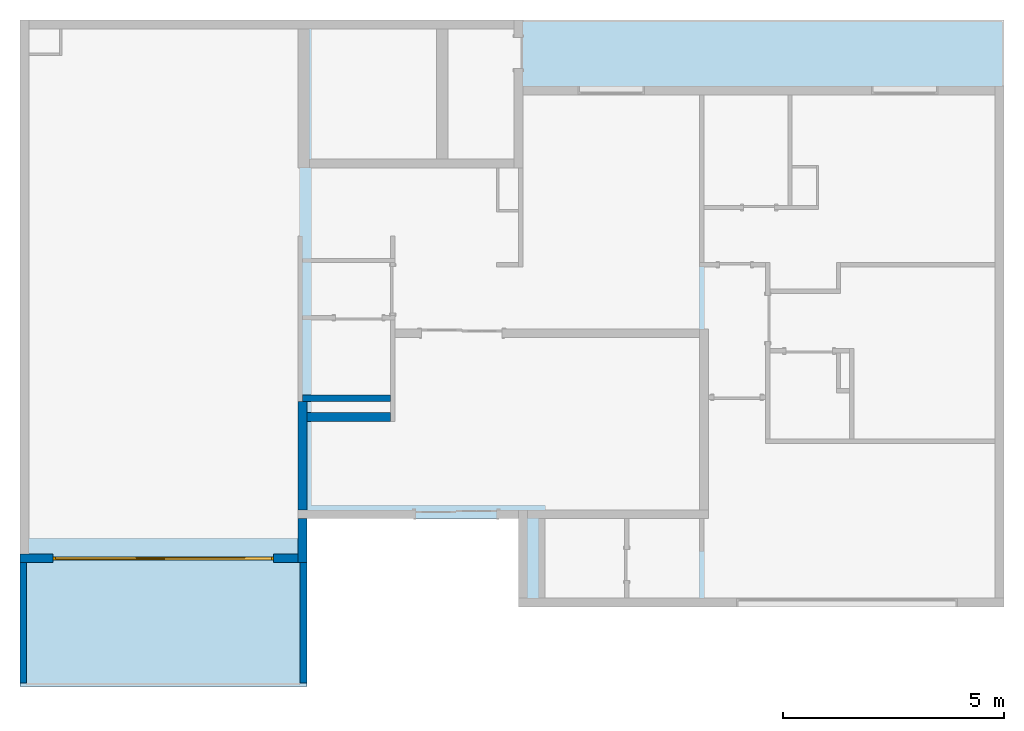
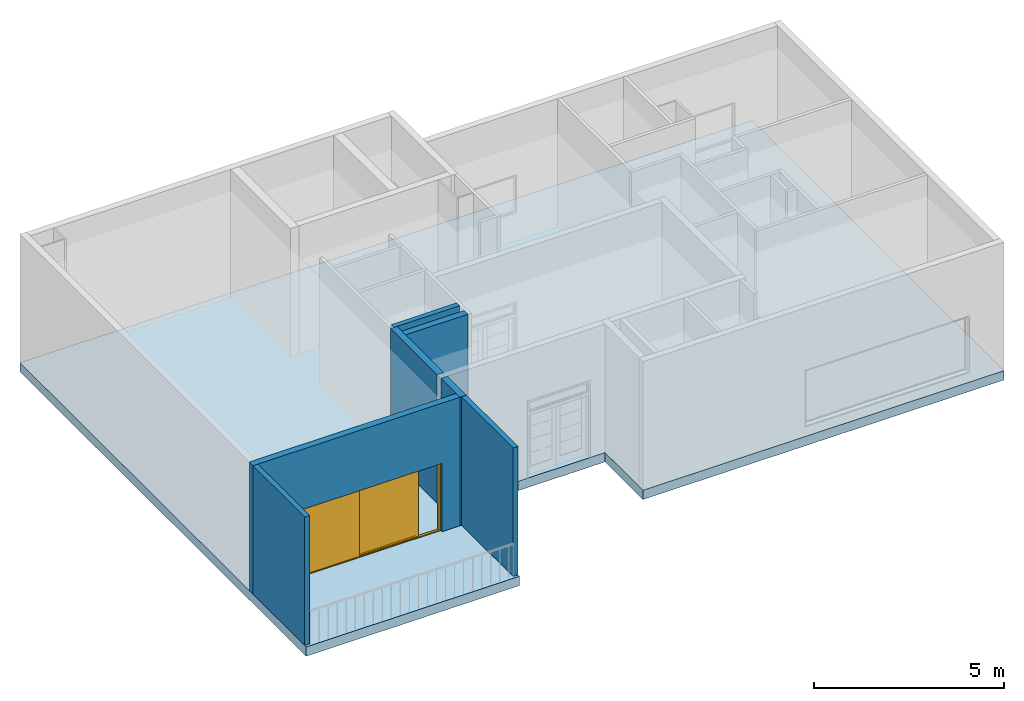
# One storey, part 1 of 8: 7 walls, 1 door, 1 slab, 1 opening.
"""IFC2X3 building model written with IfcOpenShell, lengths in metres."""

from ifc_helpers import new_model, entity, si_unit, converted_unit, derived_unit, direction, frame, frame_2d, origin, place, context, subcontext, project, spatial, polyline, rectangle, outline, extrude, faceted_brep, source, transform, mapped, material, material_list, layer, layer_set, layer_usage, type_object, type_shapes, element, fill, save


model = new_model("IFC2X3")

# Units and contexts
model_context = context("Model", 3, precision=1e-05, world=origin(), true_north=direction((6.123031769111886e-17, 1.0)))
body_context = subcontext(model_context, "Body", "Model", "MODEL_VIEW")
ifc_project = project(units=[si_unit("LENGTHUNIT", "METRE"), si_unit("AREAUNIT", "SQUARE_METRE"), si_unit("VOLUMEUNIT", "CUBIC_METRE"), converted_unit("PLANEANGLEUNIT", "DEGREE", entity("IfcRatioMeasure", 0.017453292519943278), si_unit("PLANEANGLEUNIT", "RADIAN"), dimensions=[0, 0, 0, 0, 0, 0, 0]), si_unit("MASSUNIT", "GRAM", prefix="KILO"), derived_unit("MASSDENSITYUNIT", [(si_unit("MASSUNIT", "GRAM", prefix="KILO"), 1), (si_unit("LENGTHUNIT", "METRE"), -3)]), derived_unit("MOMENTOFINERTIAUNIT", [(si_unit("LENGTHUNIT", "METRE"), 4)]), si_unit("TIMEUNIT", "SECOND"), si_unit("FREQUENCYUNIT", "HERTZ"), si_unit("THERMODYNAMICTEMPERATUREUNIT", "DEGREE_CELSIUS"), derived_unit("THERMALTRANSMITTANCEUNIT", [(si_unit("MASSUNIT", "GRAM", prefix="KILO"), 1), (si_unit("THERMODYNAMICTEMPERATUREUNIT", "KELVIN"), -1), (si_unit("TIMEUNIT", "SECOND"), -3)]), derived_unit("VOLUMETRICFLOWRATEUNIT", [(si_unit("LENGTHUNIT", "METRE"), 3), (si_unit("TIMEUNIT", "SECOND"), -1)]), derived_unit("MASSFLOWRATEUNIT", [(si_unit("MASSUNIT", "GRAM", prefix="KILO"), 1), (si_unit("TIMEUNIT", "SECOND"), -1)]), derived_unit("ROTATIONALFREQUENCYUNIT", [(si_unit("TIMEUNIT", "SECOND"), -1)]), si_unit("ELECTRICCURRENTUNIT", "AMPERE"), si_unit("ELECTRICVOLTAGEUNIT", "VOLT"), si_unit("POWERUNIT", "WATT"), si_unit("FORCEUNIT", "NEWTON", prefix="KILO"), si_unit("ILLUMINANCEUNIT", "LUX"), si_unit("LUMINOUSFLUXUNIT", "LUMEN"), si_unit("LUMINOUSINTENSITYUNIT", "CANDELA"), derived_unit("USERDEFINED", [(si_unit("MASSUNIT", "GRAM", prefix="KILO"), -1), (si_unit("LENGTHUNIT", "METRE"), -2), (si_unit("TIMEUNIT", "SECOND"), 3), (si_unit("LUMINOUSFLUXUNIT", "LUMEN"), 1)]), derived_unit("SOUNDPOWERUNIT", [(si_unit("MASSUNIT", "GRAM", prefix="KILO"), 1), (si_unit("LENGTHUNIT", "METRE"), 2), (si_unit("TIMEUNIT", "SECOND"), -3)]), derived_unit("SOUNDPRESSUREUNIT", [(si_unit("MASSUNIT", "GRAM", prefix="KILO"), 1), (si_unit("LENGTHUNIT", "METRE"), -1), (si_unit("TIMEUNIT", "SECOND"), -2)]), derived_unit("LINEARVELOCITYUNIT", [(si_unit("LENGTHUNIT", "METRE"), 1), (si_unit("TIMEUNIT", "SECOND"), -1)]), si_unit("PRESSUREUNIT", "PASCAL"), derived_unit("USERDEFINED", [(si_unit("LENGTHUNIT", "METRE"), -2), (si_unit("MASSUNIT", "GRAM", prefix="KILO"), 1), (si_unit("TIMEUNIT", "SECOND"), -2)]), derived_unit("LINEARFORCEUNIT", [(si_unit("MASSUNIT", "GRAM", prefix="KILO"), 1), (si_unit("LENGTHUNIT", "METRE"), 1), (si_unit("TIMEUNIT", "SECOND"), -2), (si_unit("LENGTHUNIT", "METRE"), -1)]), derived_unit("PLANARFORCEUNIT", [(si_unit("MASSUNIT", "GRAM", prefix="KILO"), 1), (si_unit("LENGTHUNIT", "METRE"), 1), (si_unit("TIMEUNIT", "SECOND"), -2), (si_unit("LENGTHUNIT", "METRE"), -2)])], contexts=[model_context])

# Site, building, storey
site_placement = place(None, origin())
site = spatial("IfcSite", under=ifc_project, at=site_placement, Name="Default", CompositionType="ELEMENT")
building_placement = place(site_placement, origin())
building = spatial("IfcBuilding", under=site, at=building_placement, CompositionType="ELEMENT")
storey_placement = place(building_placement, frame((0.0, 0.0, 1.1999999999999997)))
storey = spatial("IfcBuildingStorey", under=building, at=storey_placement, Name="G0", CompositionType="ELEMENT", Elevation=1.1999999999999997)

# Slab
ifc_material_1 = material(Name="Default Floor")
ifc_layer_1 = layer(ifc_material_1, 0.29999999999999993)
ifc_layer_set_1 = layer_set([ifc_layer_1], Name="Floor:Generic 300mm")
ifc_layer_usage_1 = layer_usage(ifc_layer_set_1, "AXIS3", "POSITIVE", 0.0)
slab_type = type_object("IfcSlabType", Name="Floor:Generic 300mm", PredefinedType="FLOOR", material=ifc_layer_set_1)
slab_placement = place(storey_placement, origin())
element("IfcSlab", 1, at=slab_placement, inside=storey, type_object=slab_type, material=ifc_layer_usage_1, Name="Floor:Generic 300mm", ObjectType="Floor:Generic 300mm", PredefinedType="FLOOR", context=body_context, shape_type="SweptSolid", body=[
    extrude(outline(polyline([(-5.175000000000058, -10.02499999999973), (9.924999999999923, -10.02499999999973), (9.924999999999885, 12.275000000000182), (-3.3749999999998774, 12.275000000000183), (-3.374999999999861, 1.2750000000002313), (-1.3749999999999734, 1.27500000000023), (-1.374999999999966, -3.5250000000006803), (-5.17500000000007, -3.5250000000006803), (-5.175000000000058, -10.02499999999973)])), frame((16.632683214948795, -3.927309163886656, 0.0), z_axis=(0.0, 0.0, -1.0), x_axis=(0.0, 1.0, 0.0)), (0.0, 0.0, 1.0), 0.30000000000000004),
])

# Wall
ifc_material_2 = material(Name="Masonry - Concrete Block")
ifc_layer_2 = layer(ifc_material_2, 0.2)
ifc_layer_set_2 = layer_set([ifc_layer_2], Name="Basic Wall:CW 200")
ifc_layer_usage_2 = layer_usage(ifc_layer_set_2, "AXIS2", "NEGATIVE", 0.1)
wall_type_1 = type_object("IfcWallType", Name="Basic Wall:CW 200", PredefinedType="STANDARD", material=ifc_layer_set_2)
wall_1_placement = place(storey_placement, frame((13.00768321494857, -5.302309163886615, 0.0), z_axis=(0.0, 0.0, 1.0), x_axis=(0.0, -1.0, 0.0)))
element("IfcWallStandardCase", 2, at=wall_1_placement, inside=storey, type_object=wall_type_1, material=ifc_layer_usage_2, Name="Basic Wall:CW 200", ObjectType="Basic Wall:CW 200", context=body_context, shape_type="SweptSolid", body=[
    extrude(rectangle(XDim=0.9999999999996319, YDim=0.19999999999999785, at=frame_2d((0.4999999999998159, 0.0), x_axis=(-1.0, 0.0))), origin(), (0.0, 0.0, 1.0), 4.139999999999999),
])

# Wall, opening, door
ifc_layer_usage_3 = layer_usage(ifc_layer_set_2, "AXIS2", "NEGATIVE", 0.1)
wall_2_placement = place(storey_placement, frame((12.907683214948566, -6.2023091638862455, 0.0), z_axis=(0.0, 0.0, 1.0), x_axis=(-1.0, 0.0, 0.0)))
wall_2 = element("IfcWallStandardCase", 3, at=wall_2_placement, inside=storey, type_object=wall_type_1, material=ifc_layer_usage_3, Name="Basic Wall:CW 200", ObjectType="Basic Wall:CW 200", context=body_context, shape_type="SweptSolid", body=[
    extrude(rectangle(XDim=6.299999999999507, YDim=0.2, at=frame_2d((3.1499999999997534, 3.191891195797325e-16), x_axis=(1.0, 0.0))), origin(), (0.0, 0.0, 1.0), 4.139999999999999),
])
opening_placement = place(wall_2_placement, frame((5.549999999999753, 0.09999999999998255, 0.0)))
opening = element("IfcOpeningElement", 4, at=opening_placement, cuts=wall_2, Name="Parametric_Operable_Sliding_Door_6386.0004:5M:1", ObjectType="Opening", context=body_context, shape_type="SweptSolid", body=[
    extrude(rectangle(XDim=2.199999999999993, YDim=4.999999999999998, at=frame_2d((1.0999999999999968, 2.499999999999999), x_axis=(1.0, 0.0))), frame((0.0, 0.0, 0.0), z_axis=(0.0, -1.0, 0.0), x_axis=(0.0, 0.0, 1.0)), (0.0, 0.0, 1.0), 0.2),
])
ifc_material_3 = material(Name="Window Glass")
ifc_material_4 = material(Name="Window Frame")
ifc_material_list_1 = material_list([ifc_material_3, ifc_material_4])
ifc_material_list_2 = material_list([ifc_material_3, ifc_material_4, ifc_material_3, ifc_material_4])
door_style = type_object("IfcDoorStyle", Name="Parametric_Operable_Sliding_Door_6386.0004:5M", ConstructionType="NOTDEFINED", OperationType="NOTDEFINED", ParameterTakesPrecedence=False, Sizeable=False, material=ifc_material_list_2)
shared_shape = source(origin(), body_context, "Body", "Brep", [
    faceted_brep([(0.7200000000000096, 0.0875000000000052, 2.080000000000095), (0.7200000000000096, 0.0875000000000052, 0.07000000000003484), (0.7200000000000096, 0.0775000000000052, 0.07000000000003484), (0.7200000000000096, 0.0775000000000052, 2.080000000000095), (3.0550000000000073, 0.0875000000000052, 2.080000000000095), (3.0550000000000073, 0.0875000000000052, 0.07000000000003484), (3.0550000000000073, 0.0775000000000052, 0.07000000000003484), (3.0550000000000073, 0.0775000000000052, 2.080000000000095)], [[[0, 1, 2, 3]], [[1, 0, 4, 5]], [[2, 1, 5, 6]], [[3, 2, 6, 7]], [[4, 7, 6, 5]], [[0, 3, 7, 4]]]),
    faceted_brep([(0.7200000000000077, 0.09499999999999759, 0.06999999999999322), (0.7200000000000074, 0.06999999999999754, 0.06999999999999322), (3.055000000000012, 0.06999999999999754, 0.06999999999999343), (3.055000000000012, 0.09499999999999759, 0.0699999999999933), (0.7200000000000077, 0.09499999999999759, 2.080000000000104), (0.7200000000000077, 0.06999999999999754, 2.080000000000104), (3.05500000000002, 0.09499999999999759, 2.080000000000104), (3.125000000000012, 0.09499999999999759, 2.150000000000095), (3.125000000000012, 0.09499999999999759, 0.02500000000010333), (0.6500000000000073, 0.09499999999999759, 0.0250000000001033), (0.6500000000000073, 0.09499999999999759, 2.1499999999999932), (3.055000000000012, 0.06999999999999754, 2.080000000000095), (0.6500000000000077, 0.06999999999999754, 2.1500000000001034), (0.6500000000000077, 0.06999999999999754, 0.02500000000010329), (3.125000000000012, 0.06999999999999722, 0.02500000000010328), (3.125000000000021, 0.06999999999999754, 2.1499999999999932), (0.04999999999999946, 0.06500000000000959, 0.02500000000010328), (4.949999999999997, 0.06499999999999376, 0.025000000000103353), (4.949999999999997, 0.13499999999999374, 0.025000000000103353), (0.05, 0.13500000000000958, 0.02500000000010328), (5.0, 0.0649999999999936, 0.0), (5.0, 0.0649999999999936, 2.199999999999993), (0.0, 0.06500000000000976, 2.199999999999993), (0.0, 0.06500000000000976, 0.0), (0.05, 0.06500000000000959, 2.1499999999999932), (4.949999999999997, 0.06499999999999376, 2.1499999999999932), (0.0, 0.13500000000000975, 0.0), (5.0, 0.1349999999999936, 0.0), (0.0, 0.13500000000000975, 2.199999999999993), (5.0, 0.1349999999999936, 2.199999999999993), (0.05, 0.13500000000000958, 2.1499999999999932), (4.949999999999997, 0.13499999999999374, 2.1499999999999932)], [[[0, 1, 2, 3]], [[1, 0, 4, 5]], [[4, 0, 3, 6], [7, 8, 9, 10]], [[1, 5, 11, 2], [12, 13, 14, 15]], [[13, 12, 10, 9]], [[13, 9, 8, 14], [16, 17, 18, 19]], [[11, 6, 3, 2]], [[15, 14, 8, 7]], [[20, 21, 22, 23], [24, 25, 17, 16]], [[20, 23, 26, 27]], [[23, 22, 28, 26]], [[27, 26, 28, 29], [30, 19, 18, 31]], [[21, 20, 27, 29]], [[17, 25, 31, 18]], [[24, 16, 19, 30]], [[5, 4, 6, 11]], [[22, 21, 29, 28]], [[10, 12, 15, 7], [25, 24, 30, 31]]], outer=[[True], [True], [False, True], [False, True], [True], [False, True], [True], [True], [True, False], [True], [True], [True, False], [True], [True], [True], [True], [True], [False, True]]),
    faceted_brep([(2.5249999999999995, 0.11499999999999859, 2.1499999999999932), (2.5249999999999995, 0.11499999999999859, 0.02500000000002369), (4.949999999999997, 0.11499999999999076, 0.02500000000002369), (4.949999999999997, 0.11499999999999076, 2.1499999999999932), (2.5249999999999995, 0.12099999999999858, 2.1499999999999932), (2.5249999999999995, 0.12099999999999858, 0.02500000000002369), (4.949999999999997, 0.12099999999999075, 0.02500000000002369), (4.949999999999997, 0.12099999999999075, 2.1499999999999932)], [[[0, 1, 2, 3]], [[1, 0, 4, 5]], [[2, 1, 5, 6]], [[3, 2, 6, 7]], [[4, 7, 6, 5]], [[0, 3, 7, 4]]]),
    faceted_brep([(2.474999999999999, 0.09999999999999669, 2.1499999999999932), (2.474999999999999, 0.09999999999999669, 0.025000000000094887), (2.5249999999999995, 0.09999999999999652, 0.02500000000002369), (2.5249999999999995, 0.09999999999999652, 2.1499999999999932), (2.474999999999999, 0.1300000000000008, 2.1499999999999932), (2.474999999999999, 0.1300000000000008, 0.025000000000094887), (2.5249999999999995, 0.13000000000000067, 0.02500000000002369), (2.5249999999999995, 0.13000000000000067, 2.1499999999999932)], [[[0, 1, 2, 3]], [[1, 0, 4, 5]], [[2, 1, 5, 6]], [[3, 2, 6, 7]], [[4, 7, 6, 5]], [[0, 3, 7, 4]]]),
])
type_shapes(door_style, [shared_shape])
door_placement = place(opening_placement, frame((-5.0, -0.1999999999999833, 0.0)))
door = element("IfcDoor", 5, at=door_placement, inside=storey, type_object=door_style, material=ifc_material_list_1, Name="Parametric_Operable_Sliding_Door_6386.0004:5M", ObjectType="Parametric_Operable_Sliding_Door_6386.0004:5M", OverallHeight=2.1999999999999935, OverallWidth=4.999999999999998, context=body_context, shape_type="MappedRepresentation", body=[
    mapped(shared_shape, transform((0.0, 0.0, 0.0), scale=1.0)),
])
fill(opening, door)

# Walls
ifc_layer_usage_4 = layer_usage(ifc_layer_set_2, "AXIS2", "NEGATIVE", 0.1)
wall_3_placement = place(storey_placement, frame((13.007683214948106, -5.102309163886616, 0.0), z_axis=(0.0, 0.0, 1.0), x_axis=(0.0, 1.0, 0.0)))
element("IfcWallStandardCase", 6, at=wall_3_placement, inside=storey, type_object=wall_type_1, material=ifc_layer_usage_4, Name="Basic Wall:CW 200", ObjectType="Basic Wall:CW 200", context=body_context, shape_type="SweptSolid", body=[
    extrude(rectangle(XDim=2.449999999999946, YDim=0.19999999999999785, at=frame_2d((1.224999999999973, 0.0), x_axis=(-1.0, 0.0))), origin(), (0.0, 0.0, 1.0), 4.139999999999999),
])
ifc_layer_usage_5 = layer_usage(ifc_layer_set_2, "AXIS2", "NEGATIVE", 0.1)
wall_4_placement = place(storey_placement, frame((15.007683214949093, -3.0023091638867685, 0.0), z_axis=(0.0, 0.0, 1.0), x_axis=(-1.0, 0.0, 0.0)))
element("IfcWallStandardCase", 7, at=wall_4_placement, inside=storey, type_object=wall_type_1, material=ifc_layer_usage_5, Name="Basic Wall:CW 200", ObjectType="Basic Wall:CW 200", context=body_context, shape_type="SweptSolid", body=[
    extrude(rectangle(XDim=1.9000000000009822, YDim=0.2, at=frame_2d((0.9500000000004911, 1.1102230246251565e-16), x_axis=(-1.0, 0.0))), origin(), (0.0, 0.0, 1.0), 4.139999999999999),
])
ifc_layer_3 = layer(ifc_material_2, 0.14999999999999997)
ifc_layer_set_3 = layer_set([ifc_layer_3], Name="Basic Wall:CW 150")
ifc_layer_usage_6 = layer_usage(ifc_layer_set_3, "AXIS2", "NEGATIVE", 0.07499999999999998)
wall_type_2 = type_object("IfcWallType", Name="Basic Wall:CW 150", PredefinedType="STANDARD", material=ifc_layer_set_3)
wall_5_placement = place(storey_placement, frame((15.007683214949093, -2.577309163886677, 0.0), z_axis=(0.0, 0.0, 1.0), x_axis=(-1.0, 0.0, 0.0)))
element("IfcWallStandardCase", 8, at=wall_5_placement, inside=storey, type_object=wall_type_2, material=ifc_layer_usage_6, Name="Basic Wall:CW 150", ObjectType="Basic Wall:CW 150", context=body_context, shape_type="SweptSolid", body=[
    extrude(rectangle(XDim=2.000000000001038, YDim=0.14999999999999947, at=frame_2d((1.000000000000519, 1.0408340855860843e-16), x_axis=(-1.0, 0.0))), origin(), (0.0, 0.0, 1.0), 4.139999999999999),
])
ifc_layer_usage_7 = layer_usage(ifc_layer_set_3, "AXIS2", "NEGATIVE", 0.07499999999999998)
wall_6_placement = place(storey_placement, frame((6.6826832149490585, -6.302309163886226, 0.0), z_axis=(0.0, 0.0, 1.0), x_axis=(0.0, -1.0, 0.0)))
element("IfcWallStandardCase", 9, at=wall_6_placement, inside=storey, type_object=wall_type_2, material=ifc_layer_usage_7, Name="Basic Wall:CW 150", ObjectType="Basic Wall:CW 150", context=body_context, shape_type="SweptSolid", body=[
    extrude(rectangle(XDim=2.7250000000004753, YDim=0.15000000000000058, at=frame_2d((1.3625000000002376, -5.551115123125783e-17), x_axis=(-1.0, 0.0))), origin(), (0.0, 0.0, 1.0), 4.139999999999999),
])
ifc_layer_usage_8 = layer_usage(ifc_layer_set_3, "AXIS2", "NEGATIVE", 0.07499999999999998)
wall_7_placement = place(storey_placement, frame((13.032683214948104, -9.027309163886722, 0.0), z_axis=(0.0, 0.0, 1.0), x_axis=(0.0, 1.0, 0.0)))
element("IfcWallStandardCase", 10, at=wall_7_placement, inside=storey, type_object=wall_type_2, material=ifc_layer_usage_8, Name="Basic Wall:CW 150", ObjectType="Basic Wall:CW 150", context=body_context, shape_type="SweptSolid", body=[
    extrude(rectangle(XDim=2.7250000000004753, YDim=0.15000000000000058, at=frame_2d((1.3625000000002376, -5.551115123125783e-17), x_axis=(-1.0, 0.0))), origin(), (0.0, 0.0, 1.0), 4.139999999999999),
])

save(model, "model.ifc")
